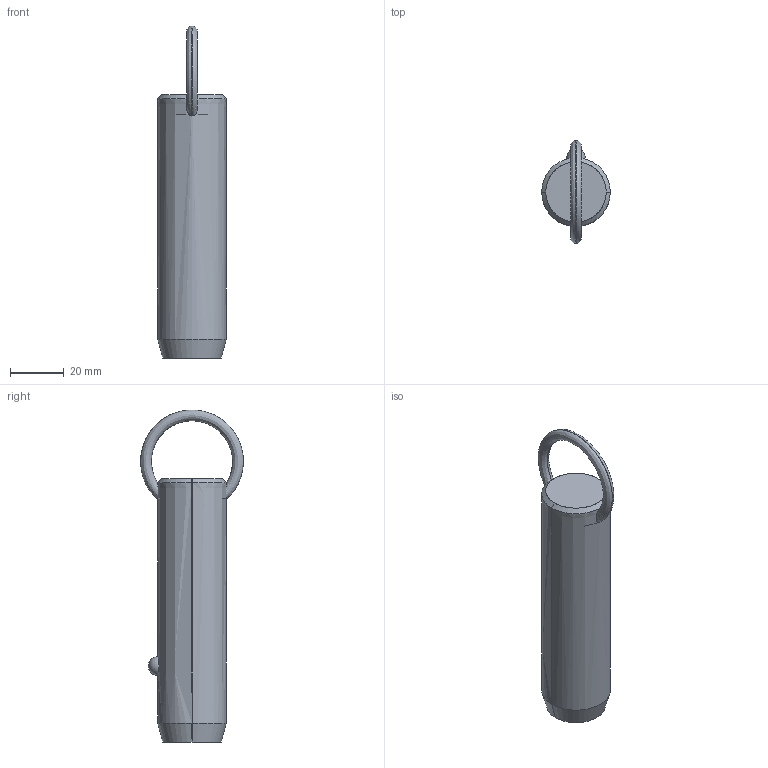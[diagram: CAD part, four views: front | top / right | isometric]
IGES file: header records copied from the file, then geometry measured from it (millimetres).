
Start section: SolidWorks IGES file using analytic representation for surfaces
Global section: file name: C:\Users\liam_\OneDrive\Documents\WORK\Work for WixRoyd\Job Files\J-00019 - Matt Davis CAD Checking\04. CAD Drawings\automotion20190605\P1250.2_v2\P1250.2_v2_20190729_IGES\P1250.100-210.igs; native system: SolidWorks 2017; preprocessor: SolidWorks 2017; author: liam_; date: 190730.173502; units: millimetre
Bounding box: 25.4 x 38.1 x 123.1 mm (x, y, z)
Surface area: 9569.4 mm2 (no closed solid volume)
Topology: 0 solids, 0 shells, 12 faces, 298 edges, 296 vertices
Faces by surface type: revolution 8, bspline 4
